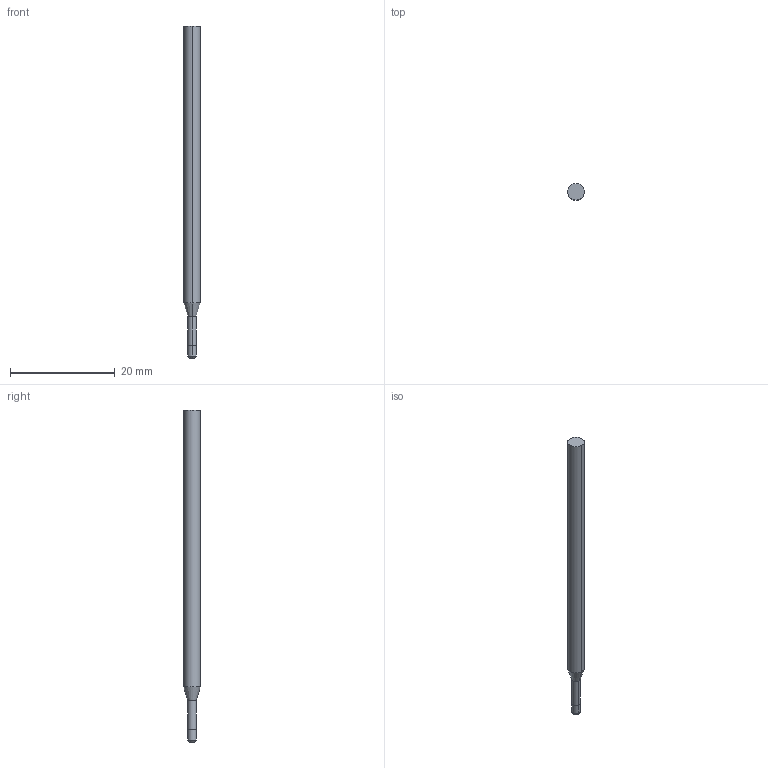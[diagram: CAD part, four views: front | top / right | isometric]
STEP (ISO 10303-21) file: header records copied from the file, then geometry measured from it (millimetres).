
FILE_DESCRIPTION((' '),'2;1');
FILE_NAME( '3MVS0625R.015N5AH.stp', '2026-01-21T19:08:23', (' '), ('--- Datakit www.datakit.com---'), ' Datakit CrossCadWare V2025.4 Sep 19 2025', 'Mastercam 2027', ' ');
FILE_SCHEMA(('AUTOMOTIVE_DESIGN { 1 0 10303 214 1 1 1 1 }'));
Length unit declared in the file: inch
Products named in the file (1): 3MVS0625R
Bounding box: 3.17 x 3.17 x 63.5 mm (x, y, z)
Volume: 447 mm3; surface area: 597.3 mm2
Topology: 1 solids, 1 shells, 12 faces, 22 edges, 12 vertices
Faces by surface type: cylinder 6, plane 2, torus 2, cone 2
Entity records: 377 total; most frequent: DIRECTION 70, CARTESIAN_POINT 51, ORIENTED_EDGE 44, AXIS2_PLACEMENT_3D 31, EDGE_CURVE 22, CIRCLE 14, VERTEX_POINT 12, EDGE_LOOP 12
